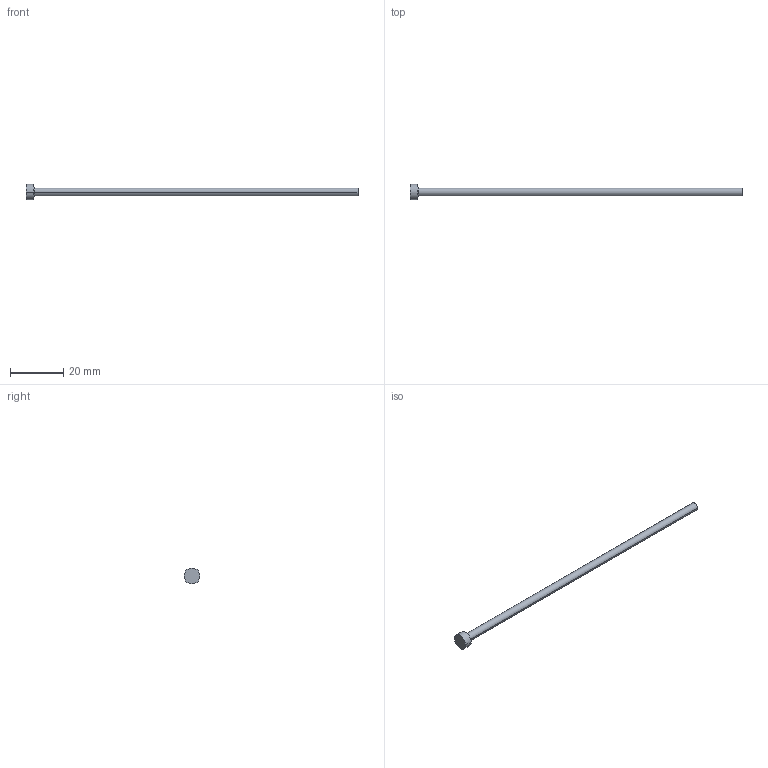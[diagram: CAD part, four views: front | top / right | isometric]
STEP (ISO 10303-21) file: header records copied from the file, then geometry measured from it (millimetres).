
FILE_DESCRIPTION (( 'STEP AP214' ), '1' );
FILE_NAME ('A-3x125.STEP', '2020-05-28T17:37:08', ( 'August' ), ( '' ), 'SwSTEP 2.0', 'SolidWorks 2018', '' );
FILE_SCHEMA (( 'AUTOMOTIVE_DESIGN' ));
Length unit declared in the file: millimetre
Products named in the file (1): A-3x125
Bounding box: 125 x 6 x 6 mm (x, y, z)
Volume: 947.4 mm3; surface area: 1261.7 mm2
Topology: 1 solids, 1 shells, 9 faces, 16 edges, 10 vertices
Faces by surface type: cylinder 4, plane 3, torus 2
Entity records: 260 total; most frequent: DIRECTION 48, CARTESIAN_POINT 36, ORIENTED_EDGE 32, AXIS2_PLACEMENT_3D 22, EDGE_CURVE 16, CIRCLE 12, EDGE_LOOP 10, VERTEX_POINT 10
